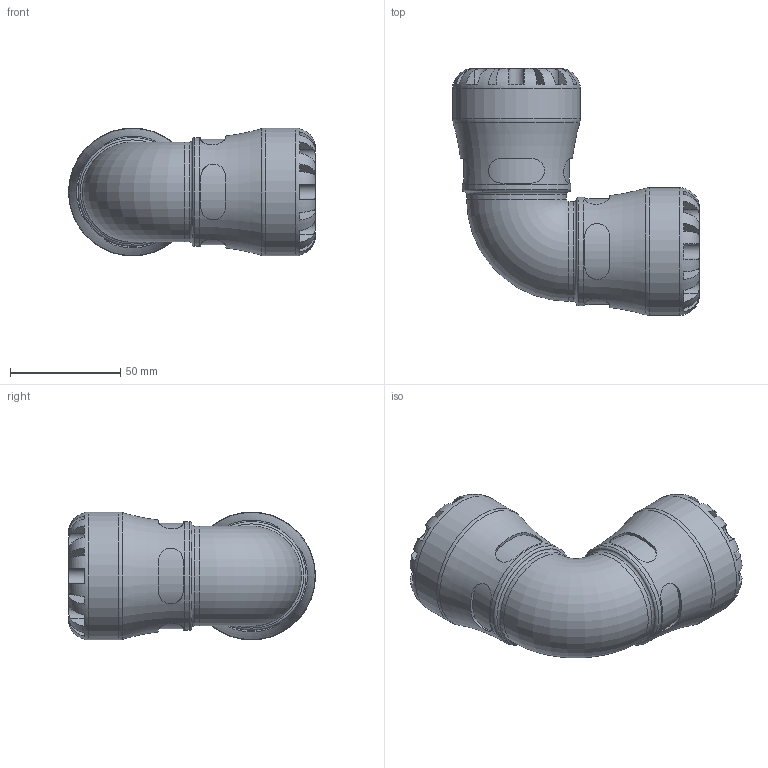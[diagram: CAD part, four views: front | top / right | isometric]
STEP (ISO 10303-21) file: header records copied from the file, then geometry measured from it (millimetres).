
FILE_DESCRIPTION(/* description */ ('PLASSON G-PLASS 90° ELBOW 32X32'),/* implementation_level */ '2;1');
FILE_NAME(/* name */ 'C:\Dropbox\KIMPROJECTS-Inventor 2019\99-16-3568-Processing\S1\150500\stp\150500032.stp',/* time_stamp */ '2023-10-17T19:34:55+03:00',/* author */ ('KIM'),/* organization */ (''),/* preprocessor_version */ 'ST-DEVELOPER v17.2',/* originating_system */ 'Autodesk Inventor 2019',/* authorisation */ '');
FILE_SCHEMA (('AUTOMOTIVE_DESIGN { 1 0 10303 214 3 1 1 }'));
Length unit declared in the file: millimetre
Products named in the file (1): 150500032
Bounding box: 112 x 112 x 58 mm (x, y, z)
Volume: 203332.4 mm3; surface area: 46916.2 mm2
Topology: 1 solids, 1 shells, 196 faces, 521 edges, 335 vertices
Faces by surface type: plane 116, cylinder 66, torus 12, cone 2
Full cylindrical faces by diameter (mm): 26.667 x2, 32 x2, 45.24 x2, 49.3 x2, 58 x2
Entity records: 7991 total; most frequent: CARTESIAN_POINT 2953, ORIENTED_EDGE 1042, DIRECTION 1008, EDGE_CURVE 521, AXIS2_PLACEMENT_3D 418, VERTEX_POINT 335, CIRCLE 221, EDGE_LOOP 206
